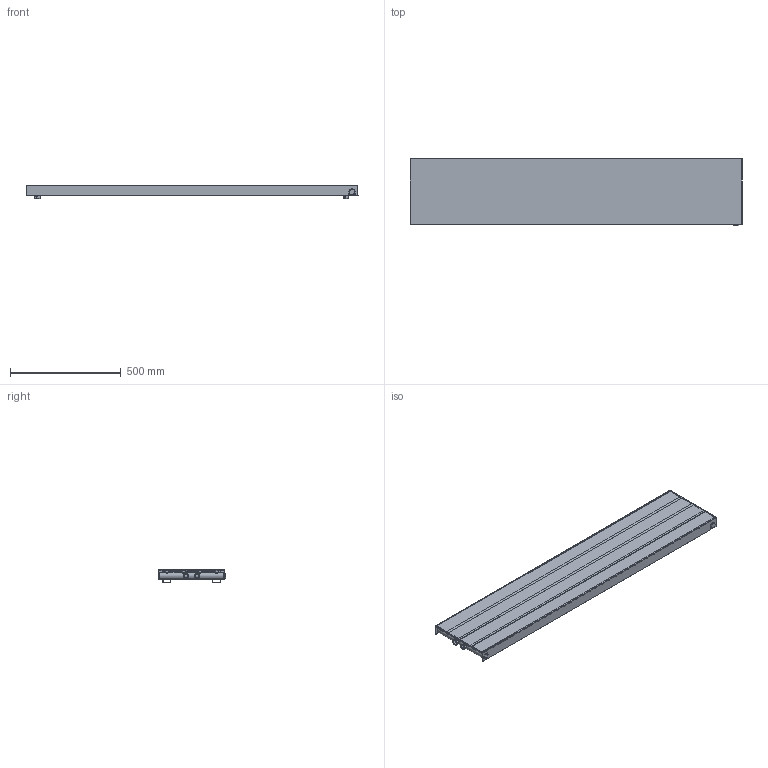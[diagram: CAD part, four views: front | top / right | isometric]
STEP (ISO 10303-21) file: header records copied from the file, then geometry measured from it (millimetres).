
FILE_DESCRIPTION(/* description */ (''),/* implementation_level */ '2;1');
FILE_NAME(/* name */ 'C:\Grzejniki\13DLUXRAD\pokojowe\NIAGARA\to\NIAGARA z osłoną w kolorze standardowym 1500x300.iam.stp',/* time_stamp */ '2016-06-28T17:34:07+02:00',/* author */ ('m.szydziak'),/* organization */ (''),/* preprocessor_version */ 'ST-DEVELOPER v16.5',/* originating_system */ 'Autodesk Inventor 2017',/* authorisation */ '');
FILE_SCHEMA (('AUTOMOTIVE_DESIGN { 1 0 10303 214 3 1 1 }'));
Length unit declared in the file: millimetre
Products named in the file (12): NIAGARA z osłoną w kolorze standa
rdowym 1500x300; NIAGARA 1500x300 osłona; NIAGARA 1500x295 ZDC; %%C30x1,5x295; 70x8x1,2x1504; michałek; ucho duze; ucho duze 2; poprzeczka 255; ZDC dzwonki; dzwonek G0,5inch; korek
Assembly tree (27 placements, depth 4):
  NIAGARA z osłoną w kolorze standa
rdowym 1500x300
    NIAGARA 1500x300 osłona
    NIAGARA 1500x295 ZDC
      %%C30x1,5x295  x2
      70x8x1,2x1504  x4
      michałek  x8
      ucho duze  x2
      ucho duze 2  x2
      poprzeczka 255  x3
      ZDC dzwonki
        dzwonek G0,5inch  x2
      korek
Bounding box: 1502 x 303.5 x 63.3 mm (x, y, z)
Volume: 1688648.8 mm3; surface area: 3147538.9 mm2
Topology: 25 solids, 25 shells, 381 faces, 869 edges, 540 vertices
Faces by surface type: plane 207, cylinder 138, sphere 32, cone 2, bspline 2
Full cylindrical faces by diameter (mm): 8 x8, 9 x8, 10 x16, 11.5 x8, 16 x2, 18.5 x2, 18.631 x6, 22.9 x2, 24 x1, 25.3 x2, 27 x2, 30 x2
Entity records: 5506 total; most frequent: CARTESIAN_POINT 1193, DIRECTION 887, ORIENTED_EDGE 746, EDGE_CURVE 373, AXIS2_PLACEMENT_3D 322, LINE 243, VECTOR 243, VERTEX_POINT 240
